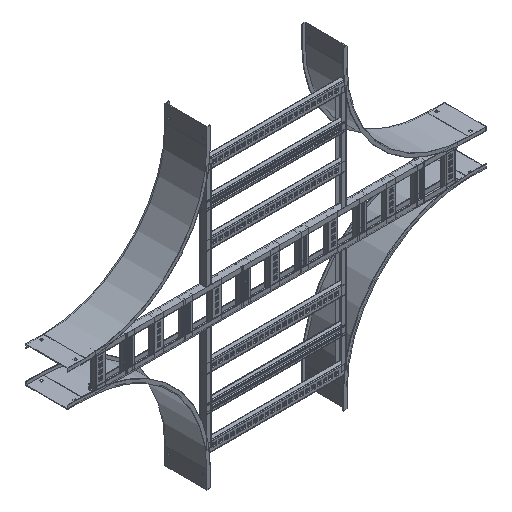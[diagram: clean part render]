
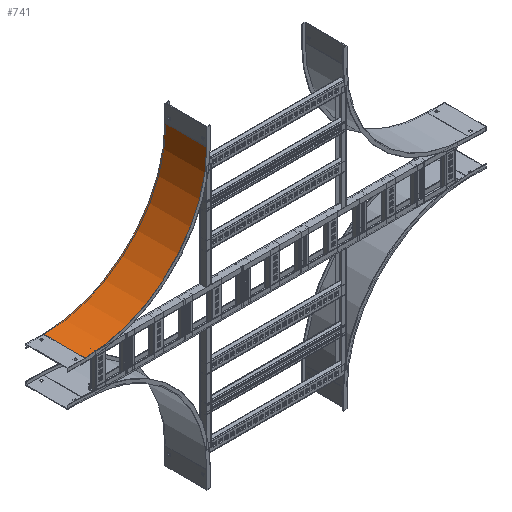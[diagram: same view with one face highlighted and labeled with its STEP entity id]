
A CAD part, isometric view. The second image highlights one B-rep face of the part: STEP entity #741.
In plain terms, the highlighted cylindrical face has radius 533.4 mm (diameter 1066.8 mm), a partial arc.
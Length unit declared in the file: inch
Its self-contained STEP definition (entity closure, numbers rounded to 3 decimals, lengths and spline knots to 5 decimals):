
#156=CARTESIAN_POINT('',(0.,-21.,3.));
#157=DIRECTION('',(1.,0.,0.));
#158=DIRECTION('',(0.,1.,0.));
#159=AXIS2_PLACEMENT_3D('',#156,#157,#158);
#165=DIRECTION('',(1.,0.,0.));
#166=VECTOR('',#165,7.24);
#167=CARTESIAN_POINT('',(-7.24,0.,3.));
#168=LINE('',#167,#166);
#169=CARTESIAN_POINT('',(-7.24,-21.,3.));
#170=DIRECTION('',(1.,0.,0.));
#171=DIRECTION('',(0.,1.,0.));
#172=AXIS2_PLACEMENT_3D('',#169,#170,#171);
#174=DIRECTION('',(1.,0.,0.));
#175=VECTOR('',#174,7.24);
#176=CARTESIAN_POINT('',(-7.24,-21.,24.));
#177=LINE('',#176,#175);
#409=CARTESIAN_POINT('',(-7.24,0.,3.));
#410=CARTESIAN_POINT('',(0.,0.,3.));
#411=VERTEX_POINT('',#409);
#412=VERTEX_POINT('',#410);
#425=CARTESIAN_POINT('',(-7.24,-21.,24.));
#426=CARTESIAN_POINT('',(0.,-21.,24.));
#427=VERTEX_POINT('',#425);
#428=VERTEX_POINT('',#426);
#729=CARTESIAN_POINT('',(-1.,-21.,3.));
#730=DIRECTION('',(1.,0.,0.));
#731=DIRECTION('',(0.,-1.,0.));
#732=AXIS2_PLACEMENT_3D('',#729,#730,#731);
#733=CYLINDRICAL_SURFACE('',#732,21.);
#734=ORIENTED_EDGE('',*,*,#553,.F.);
#735=ORIENTED_EDGE('',*,*,#596,.T.);
#737=ORIENTED_EDGE('',*,*,#736,.T.);
#738=ORIENTED_EDGE('',*,*,#715,.F.);
#739=EDGE_LOOP('',(#734,#735,#737,#738));
#740=FACE_OUTER_BOUND('',#739,.F.);
#741=ADVANCED_FACE('',(#740),#733,.F.);
#160=CIRCLE('',#159,21.);
#173=CIRCLE('',#172,21.);
#553=EDGE_CURVE('',#411,#412,#168,.T.);
#596=EDGE_CURVE('',#411,#427,#173,.T.);
#715=EDGE_CURVE('',#412,#428,#160,.T.);
#736=EDGE_CURVE('',#427,#428,#177,.T.);
